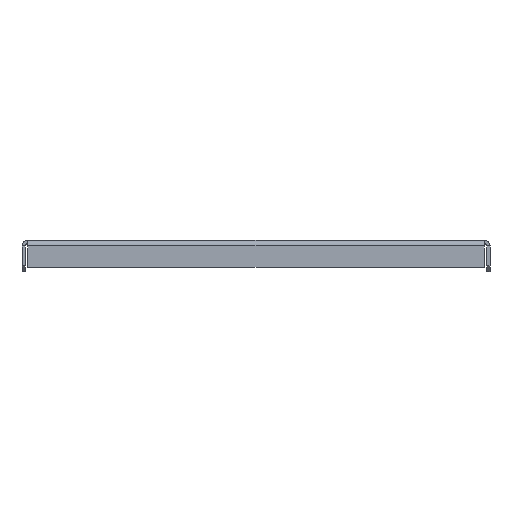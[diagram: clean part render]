
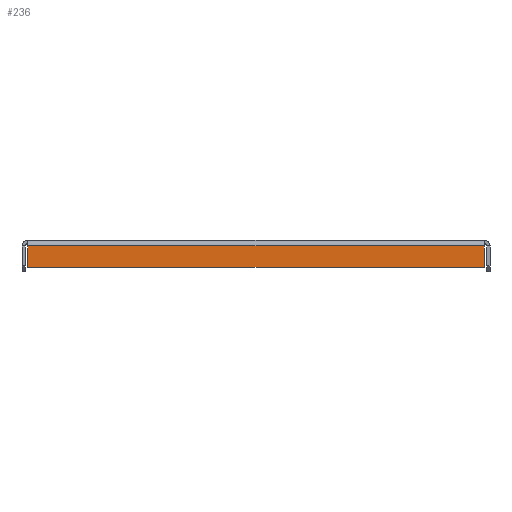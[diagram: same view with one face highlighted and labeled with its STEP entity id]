
A CAD part, front view. The second image highlights one B-rep face of the part: STEP entity #236.
In plain terms, the highlighted planar face has unit normal (0, -1, 0).
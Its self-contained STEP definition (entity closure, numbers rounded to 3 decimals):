
#236=ADVANCED_FACE('',(#2644),#2646,.T.);
#2644=FACE_BOUND('',#2645,.T.);
#2645=EDGE_LOOP('',(#4833,#4834,#4835,#4836));
#2646=PLANE('',#2647);
#2647=AXIS2_PLACEMENT_3D('',#2648,#2649,#2650);
#2648=CARTESIAN_POINT('',(0.,-148.5,0.));
#2649=DIRECTION('',(0.,-1.,0.));
#2650=DIRECTION('',(0.,0.,-1.));
#4833=ORIENTED_EDGE('',*,*,#6175,.F.);
#4834=ORIENTED_EDGE('',*,*,#6169,.T.);
#4835=ORIENTED_EDGE('',*,*,#6171,.F.);
#4836=ORIENTED_EDGE('',*,*,#6177,.F.);
#6169=EDGE_CURVE('',#7604,#7611,#7615,.T.);
#6171=EDGE_CURVE('',#7617,#7611,#7618,.T.);
#6175=EDGE_CURVE('',#7604,#7624,#7625,.T.);
#6177=EDGE_CURVE('',#7624,#7617,#7627,.T.);
#7604=VERTEX_POINT('',#10674);
#7611=VERTEX_POINT('',#10694);
#7615=LINE('',#10705,#10706);
#7617=VERTEX_POINT('',#10711);
#7618=LINE('',#10712,#10713);
#7624=VERTEX_POINT('',#10726);
#7625=LINE('',#10727,#10728);
#7627=LINE('',#10733,#10734);
#10674=CARTESIAN_POINT('',(139.1,-148.5,-3.4));
#10694=CARTESIAN_POINT('',(-139.1,-148.5,-3.4));
#10705=CARTESIAN_POINT('',(139.1,-148.5,-3.4));
#10706=VECTOR('',#10707,1.);
#10707=DIRECTION('',(-1.,0.,0.));
#10711=CARTESIAN_POINT('',(-139.1,-148.5,-16.4));
#10712=CARTESIAN_POINT('',(-139.1,-148.5,-16.4));
#10713=VECTOR('',#10714,1.);
#10714=DIRECTION('',(0.,0.,1.));
#10726=CARTESIAN_POINT('',(139.1,-148.5,-16.4));
#10727=CARTESIAN_POINT('',(139.1,-148.5,-3.4));
#10728=VECTOR('',#10729,1.);
#10729=DIRECTION('',(0.,0.,-1.));
#10733=CARTESIAN_POINT('',(139.1,-148.5,-16.4));
#10734=VECTOR('',#10735,1.);
#10735=DIRECTION('',(-1.,0.,0.));
